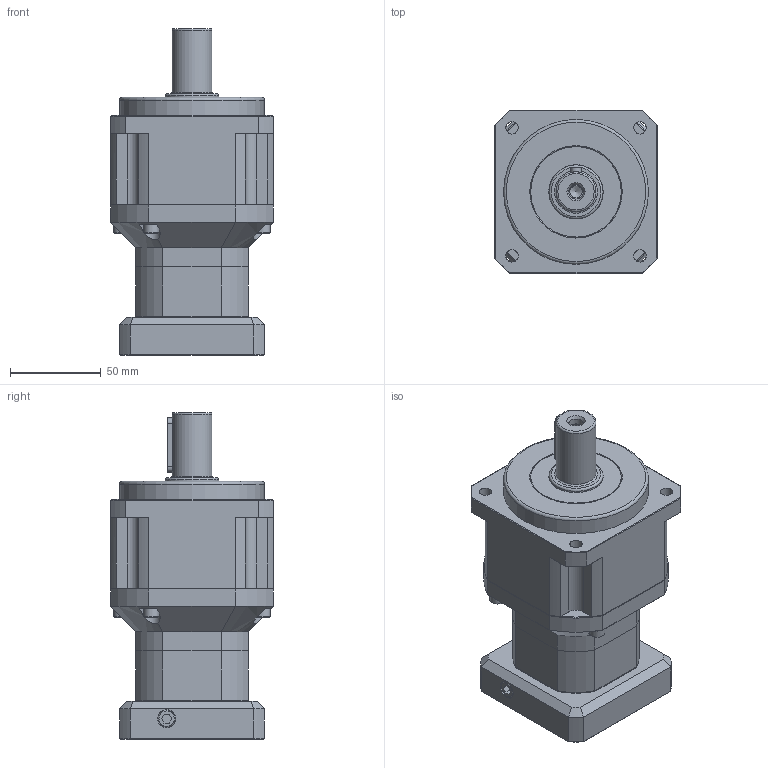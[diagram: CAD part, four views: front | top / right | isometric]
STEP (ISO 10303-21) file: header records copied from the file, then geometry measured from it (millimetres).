
FILE_DESCRIPTION((''),'2;1');
FILE_NAME('C:\Work\감속기 카다로그 도면\ATG Reducer(홈페이지)\KSB\추가수정\KSB-90-2 (S19).stp','2014-06-24T11:19:16',('young'),(''),'Autodesk Inventor 2012','Autodesk Inventor 2012','');
FILE_SCHEMA(('AUTOMOTIVE_DESIGN { 1 0 10303 214 1 1 1 1 }'));
Length unit declared in the file: millimetre
Products named in the file (3): KSB-90-2 (S19); 92-2-Body; 62-S19
Assembly tree (2 placements, depth 2):
  KSB-90-2 (S19)
    92-2-Body
    62-S19
Bounding box: 90 x 90 x 180.5 mm (x, y, z)
Volume: 739843.5 mm3; surface area: 127959.3 mm2
Topology: 21 solids, 21 shells, 612 faces, 1437 edges, 902 vertices
Faces by surface type: plane 354, cylinder 135, cone 90, torus 18, bspline 15
Full cylindrical faces by diameter (mm): 3.3 x4, 4 x1, 4.2 x9, 4.5 x4, 5 x12, 5.5 x9, 6.8 x5, 7 x1, 8 x5, 8.5 x8, 9.5 x2, 17 x1, 19.2 x1, 20 x1, 22 x1, 23.5 x1, 24.8 x1, 26 x1, 29.8 x1, 30 x1, 35 x2, 44 x1, 50 x4, 70 x1, 80 x1
Entity records: 17711 total; most frequent: CARTESIAN_POINT 4205, DIRECTION 2791, ORIENTED_EDGE 2500, EDGE_CURVE 1250, AXIS2_PLACEMENT_3D 1046, VERTEX_POINT 863, EDGE_LOOP 843, VECTOR 699
